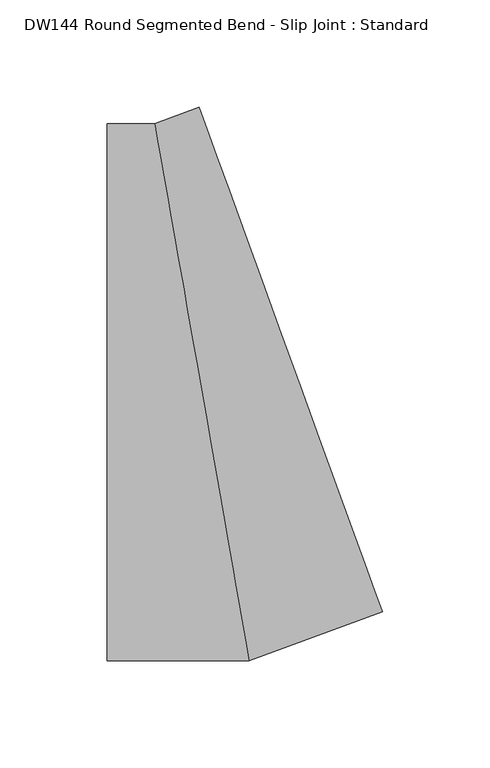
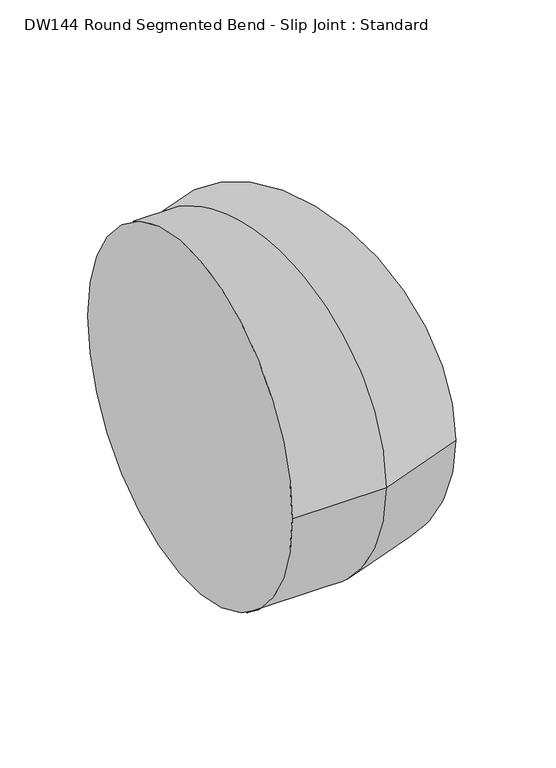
"""IFC4 building model written with IfcOpenShell, lengths in millimetres: duct fitting geometry, DW144 Round Segmented Bend - Slip Joint : Standard."""

import ifcopenshell
import ifcopenshell.guid

model = None  # the IFC model being written
_history = None  # IfcOwnerHistory: only IFC2X3 demands one
_inside = {}  # id of a spatial element -> (the spatial element, [elements in it])
_under = {}  # id of a project, library or spatial element -> (it, [spatial elements below it])
_declared = {}  # id of a project -> (the project, [libraries it declares])
_typed = {}  # id of a type object -> (the type object, [elements of that type])
_made_of = {}  # id of a material, layer set ... -> (it, [elements and type objects made of it])


def new_model(schema):
    """Start an empty IFC model of exactly this schema.

    Asked for "IFC4X3", IfcOpenShell would pick the latest addendum, in which some entities
    have other attributes; the version numbers below select the first issue.
    IFC2X3 requires an IfcOwnerHistory on every rooted entity: one is made here for all.
    """
    global model, _history
    if schema == "IFC4X3":
        model = ifcopenshell.file(schema_version=(4, 3, 0, 0))
    else:
        model = ifcopenshell.file(schema=schema)
    _inside.clear()
    _under.clear()
    _declared.clear()
    _typed.clear()
    _made_of.clear()
    _history = None
    if model.schema == "IFC2X3":
        org = make("IfcOrganization", Name="unknown")
        user = make(
            "IfcPersonAndOrganization",
            ThePerson=make("IfcPerson", FamilyName="unknown"),
            TheOrganization=org,
        )
        app = make(
            "IfcApplication",
            ApplicationDeveloper=org,
            Version="unknown",
            ApplicationFullName="unknown",
            ApplicationIdentifier="unknown",
        )
        _history = make(
            "IfcOwnerHistory",
            OwningUser=user,
            OwningApplication=app,
            ChangeAction="ADDED",
            CreationDate=0,
        )
    return model


def make(cls, **values):
    """One entity of the class cls with the attributes given. An attribute that is None is left unset."""
    return model.create_entity(
        cls, **{name: value for name, value in values.items() if value is not None}
    )


def rooted(cls, **values):
    """An entity with a GlobalId (a new one), such as an element, a storey or a relation."""
    return make(cls, GlobalId=ifcopenshell.guid.new(), OwnerHistory=_history, **values)


def si_unit(unit_type, name, prefix=None):
    """IfcSIUnit, for example si_unit("LENGTHUNIT", "METRE", prefix="MILLI")."""
    return make("IfcSIUnit", UnitType=unit_type, Prefix=prefix, Name=name)


def assignment(units):
    """IfcUnitAssignment: the units of a project."""
    return None if units is None else make("IfcUnitAssignment", Units=units)


def point(xyz):
    """IfcCartesianPoint."""
    return None if xyz is None else make("IfcCartesianPoint", Coordinates=xyz)


def direction(xyz):
    """IfcDirection."""
    return None if xyz is None else make("IfcDirection", DirectionRatios=xyz)


def frame(location, z_axis=None, x_axis=None):
    """IfcAxis2Placement3D, a coordinate frame: its origin and axes. An axis left out is left unset."""
    return make(
        "IfcAxis2Placement3D",
        Location=point(location),
        Axis=direction(z_axis),
        RefDirection=direction(x_axis),
    )


def origin():
    """The frame at (0, 0, 0) with its axes left unset."""
    return frame((0.0, 0.0, 0.0))


def place(relative_to, where):
    """IfcLocalPlacement: puts the frame where relative to a parent placement (None: the world)."""
    return make(
        "IfcLocalPlacement", PlacementRelTo=relative_to, RelativePlacement=where
    )


def context(
    kind, dimensions, precision=None, world=None, true_north=None, identifier=None
):
    """IfcGeometricRepresentationContext, for example the 3D "Model" context."""
    return make(
        "IfcGeometricRepresentationContext",
        ContextIdentifier=identifier,
        ContextType=kind,
        CoordinateSpaceDimension=dimensions,
        Precision=precision,
        WorldCoordinateSystem=world,
        TrueNorth=true_north,
    )


def project(units=None, contexts=None):
    """IfcProject with its units and contexts."""
    return rooted(
        "IfcProject",
        Name="project",
        RepresentationContexts=contexts,
        UnitsInContext=assignment(units),
    )


def spatial(cls, under=None, at=None, **own):
    """A site, building, storey or space (cls), placed at a placement, below another one or the project."""
    s = rooted(cls, ObjectPlacement=at, **own)
    if under is not None:
        _under.setdefault(under.id(), (under, []))[1].append(s)
    return s


def circle_curve(where, radius):
    """IfcCircle in the frame where."""
    return make("IfcCircle", Position=where, Radius=radius)


def ellipse_curve(where, semi_axis1, semi_axis2):
    """IfcEllipse in the frame where."""
    return make(
        "IfcEllipse", Position=where, SemiAxis1=semi_axis1, SemiAxis2=semi_axis2
    )


def shape(context_of_items, identifier, shape_type, items):
    """IfcShapeRepresentation: the items that make up one representation, for example the "Body"."""
    return make(
        "IfcShapeRepresentation",
        ContextOfItems=context_of_items,
        RepresentationIdentifier=identifier,
        RepresentationType=shape_type,
        Items=items,
    )


def source(mapping_origin, context_of_items, identifier, shape_type, items):
    """IfcRepresentationMap: a shape defined once, which mapped items show again and again."""
    return make(
        "IfcRepresentationMap",
        MappingOrigin=mapping_origin,
        MappedRepresentation=shape(context_of_items, identifier, shape_type, items),
    )


def transform(
    local_origin,
    x_axis=None,
    y_axis=None,
    z_axis=None,
    scale=None,
    scale2=None,
    scale3=None,
    uniform=True,
):
    """IfcCartesianTransformationOperator3D, or its non-uniform kind. x_axis, y_axis, z_axis: its Axis1, 2, 3."""
    if uniform:
        return make(
            "IfcCartesianTransformationOperator3D",
            Axis1=direction(x_axis),
            Axis2=direction(y_axis),
            LocalOrigin=point(local_origin),
            Scale=scale,
            Axis3=direction(z_axis),
        )
    return make(
        "IfcCartesianTransformationOperator3DnonUniform",
        Axis1=direction(x_axis),
        Axis2=direction(y_axis),
        LocalOrigin=point(local_origin),
        Scale=scale,
        Axis3=direction(z_axis),
        Scale2=scale2,
        Scale3=scale3,
    )


def mapped(mapping_source, mapping_target):
    """IfcMappedItem: shows the shape of a source again, moved by a transform."""
    return make(
        "IfcMappedItem", MappingSource=mapping_source, MappingTarget=mapping_target
    )


def made_of(thing, what):
    """Note that an element or type object is made of a material, layer set ...; save() writes the relation."""
    if what is not None:
        _made_of.setdefault(what.id(), (what, []))[1].append(thing)
    return thing


def element(
    cls,
    number,
    at=None,
    inside=None,
    cuts=None,
    type_object=None,
    material=None,
    context=None,
    identifier="Body",
    shape_type=None,
    held_by="IfcProductDefinitionShape",
    body=None,
    shapes=None,
    **own,
):
    """One element of the class cls, such as IfcWall. Its Tag is "e" and its number.

    at: its placement. inside: the storey or other place that contains it. cuts: it is an
    opening in that element (IfcRelVoidsElement). A single representation is given by context,
    identifier, shape_type and body (its items); several are given by shapes. held_by: the class
    of the entity that holds the representations. save() writes the other relations.
    """
    e = rooted(cls, Tag="e%d" % number, ObjectPlacement=at, **own)
    if body is not None:
        shapes = [shape(context, identifier, shape_type, body)]
    if shapes is not None:
        e.Representation = make(held_by, Representations=shapes)
    if inside is not None:
        _inside.setdefault(inside.id(), (inside, []))[1].append(e)
    if cuts is not None:
        rooted(
            "IfcRelVoidsElement", RelatingBuildingElement=cuts, RelatedOpeningElement=e
        )
    if type_object is not None:
        _typed.setdefault(type_object.id(), (type_object, []))[1].append(e)
    return made_of(e, material)


def aggregate(whole, parts):
    """IfcRelAggregates: a whole, such as a stair, and the parts it consists of."""
    return rooted("IfcRelAggregates", RelatingObject=whole, RelatedObjects=parts)


def save(model, path):
    """Write the relations noted so far, then the file.

    IfcRelAggregates (storeys below a building ...), IfcRelContainedInSpatialStructure (elements
    in a storey), IfcRelDefinesByType, IfcRelAssociatesMaterial and IfcRelDeclares: one each for
    every whole, place, type object, material and project.
    """
    for whole, parts in _under.values():
        aggregate(whole, parts)
    for where, things in _inside.values():
        rooted(
            "IfcRelContainedInSpatialStructure",
            RelatedElements=things,
            RelatingStructure=where,
        )
    for kind, things in _typed.values():
        rooted("IfcRelDefinesByType", RelatedObjects=things, RelatingType=kind)
    for what, things in _made_of.values():
        rooted("IfcRelAssociatesMaterial", RelatedObjects=things, RelatingMaterial=what)
    for by, libraries in _declared.values():
        rooted("IfcRelDeclares", RelatingContext=by, RelatedDefinitions=libraries)
    model.write(path)


def plane_surface(at):
    """IfcPlane: the flat surface through the origin of the frame at, square to its z axis."""
    return make("IfcPlane", Position=at)


def cylinder_surface(at, radius):
    """IfcCylindricalSurface: all points at the distance radius from the z axis of the frame at."""
    return make("IfcCylindricalSurface", Position=at, Radius=radius)


def advanced_brep(points, edges, surfaces, faces):
    """IfcAdvancedBrep: a solid bounded by faces that lie on surfaces and meet in shared edges.

    An edge is (start, end): straight between two places in points (the first is 0);
    or (start, end, curve); or (start, end, curve, False) where it runs against its curve.
    A face is (place in surfaces, loops), or (place, loops, False) where it looks against
    its surface's normal. A loop lists edges by number (the first is 1), with a minus sign
    where the edge is run from its end to its start. The first loop is the outer one.
    """
    corners = [point(p) for p in points]
    vertices = [make("IfcVertexPoint", VertexGeometry=c) for c in corners]
    made = []
    for start, end, *more in edges:
        made.append(
            make(
                "IfcEdgeCurve",
                EdgeStart=vertices[start],
                EdgeEnd=vertices[end],
                EdgeGeometry=more[0] if more else make("IfcPolyline", Points=[corners[start], corners[end]]),
                SameSense=more[1] if len(more) > 1 else True,
            )
        )
    hull = []
    for where, loops, *sense in faces:
        bounds = []
        for j, loop in enumerate(loops):
            ring = [make("IfcOrientedEdge", EdgeElement=made[abs(k) - 1], Orientation=k > 0) for k in loop]
            bounds.append(
                make(
                    "IfcFaceOuterBound" if j == 0 else "IfcFaceBound",
                    Bound=make("IfcEdgeLoop", EdgeList=ring),
                    Orientation=True,
                )
            )
        hull.append(make("IfcAdvancedFace", Bounds=bounds, FaceSurface=surfaces[where], SameSense=sense[0] if sense else True))
    return make("IfcAdvancedBrep", Outer=make("IfcClosedShell", CfsFaces=hull))


def dw144_round_segmented_bend_slip_joint_standard_a701160d(model_context):
    return source(origin(), model_context, "Body", "AdvancedBrep", [
        advanced_brep(
        [(-44.0817452, -125.0, 0.0), (-44.0817452, 125.0, 0.0), (22.0408726, -125.0, 0.0), (-22.0408726, 125.0, 0.0), (84.1758086, -102.3847328, 0.0), (-1.3292273, 132.5384224, 0.0)],
        [
            (0, 1, circle_curve(frame((-44.0817452, 0.0, 0.0), z_axis=(-1.0, 0.0, 0.0), x_axis=(0.0, 1.0, 0.0)), 125.0)),
            (1, 0, circle_curve(frame((-44.0817452, 0.0, 0.0), z_axis=(-1.0, 0.0, 0.0), x_axis=(0.0, 1.0, 0.0)), 125.0)),
            (0, 2),
            (2, 3, ellipse_curve(frame((0.0, 0.0, 0.0), z_axis=(-0.9848077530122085, -0.17364817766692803, 0.0), x_axis=(-0.17364817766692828, 0.9848077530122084, 0.0)), 126.9283265, 125.0)),
            (3, 1),
            (3, 2, ellipse_curve(frame((0.0, 0.0, 0.0), z_axis=(-0.9848077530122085, -0.17364817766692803, 0.0), x_axis=(-0.17364817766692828, 0.9848077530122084, 0.0)), 126.9283265, 125.0)),
            (2, 4),
            (4, 5, circle_curve(frame((41.4232907, 15.0768448, 0.0), z_axis=(-0.9396926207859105, -0.3420201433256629, 0.0), x_axis=(-0.3420201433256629, 0.9396926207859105, 0.0)), 125.0)),
            (5, 3),
            (5, 4, circle_curve(frame((41.4232907, 15.0768448, 0.0), z_axis=(-0.9396926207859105, -0.3420201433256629, 0.0), x_axis=(-0.3420201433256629, 0.9396926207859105, 0.0)), 125.0)),
        ],
        [
            plane_surface(frame((-44.0817452, 0.0, 0.0), z_axis=(-1.0, 0.0, 0.0), x_axis=(0.0, 0.0, 1.0))),
            cylinder_surface(frame((-44.0817452, 0.0, 0.0), z_axis=(-1.0, 0.0, 0.0), x_axis=(0.0, 1.0, 0.0)), 125.0),
            cylinder_surface(frame((0.0, 0.0, 0.0), z_axis=(-0.9396926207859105, -0.3420201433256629, 0.0), x_axis=(-0.3420201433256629, 0.9396926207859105, 0.0)), 125.0),
            plane_surface(frame((41.4232907, 15.0768448, 0.0), z_axis=(0.9396926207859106, 0.3420201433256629, 0.0), x_axis=(0.0, 0.0, 1.0))),
        ],
        [
            (0, [[1, 2]]),
            (1, [[-1, 3, 4, 5]]),
            (1, [[-2, -5, 6, -3]]),
            (2, [[-4, 7, 8, 9]]),
            (2, [[-6, -9, 10, -7]]),
            (3, [[-10, -8]]),
        ],
    ),
    ])


if __name__ == "__main__":
    model = new_model("IFC4")
    model_context = context("Model", 3, world=origin())
    ifc_project = project(units=[si_unit("LENGTHUNIT", "METRE", prefix="MILLI")], contexts=[model_context])
    site = spatial("IfcSite", under=ifc_project)
    building = spatial("IfcBuilding", under=site)
    placement = place(None, origin())
    dw144_round_segmented_bend_slip_joint_standard_shape = dw144_round_segmented_bend_slip_joint_standard_a701160d(model_context)
    element("IfcDuctFitting", 1, ObjectType="DW144 Round Segmented Bend - Slip Joint : Standard", at=placement, inside=building, context=model_context, shape_type="MappedRepresentation", body=[
        mapped(dw144_round_segmented_bend_slip_joint_standard_shape, transform((0.0, 0.0, 0.0), x_axis=(1.0, 0.0, 0.0), y_axis=(0.0, 1.0, 0.0), z_axis=(0.0, 0.0, 1.0))),
    ])
    save(model, "model.ifc")
